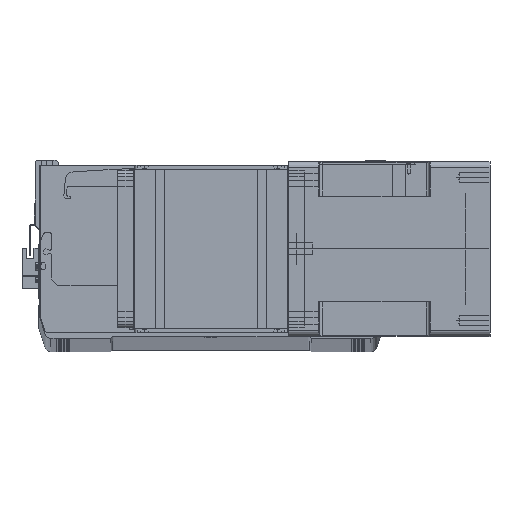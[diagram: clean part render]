
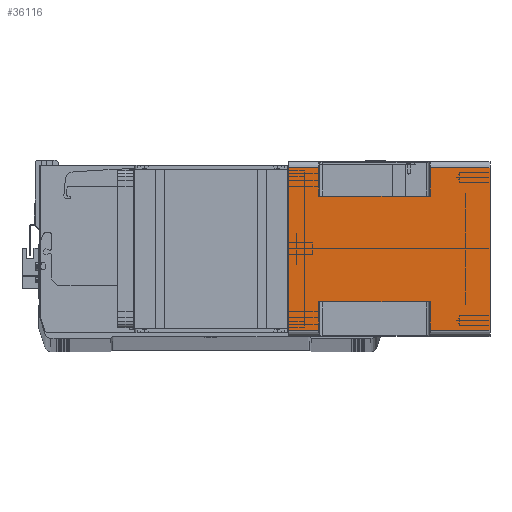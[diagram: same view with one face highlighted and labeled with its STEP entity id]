
A CAD part, top view. The second image highlights one B-rep face of the part: STEP entity #36116.
In plain terms, the highlighted planar face has unit normal (0, 0, 1) as drawn and (1, 0, 0) by its records, which use the part's own axes.
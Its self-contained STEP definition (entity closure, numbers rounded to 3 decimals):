
#647 = DIRECTION ( 'NONE',  ( 0., 0., 1. ) ) ;
#1308 = DIRECTION ( 'NONE',  ( 0., 1., 0. ) ) ;
#2711 = ORIENTED_EDGE ( 'NONE', *, *, #30347, .F. ) ;
#3357 = LINE ( 'NONE', #23295, #18928 ) ;
#3708 = LINE ( 'NONE', #35289, #28153 ) ;
#4295 = LINE ( 'NONE', #22416, #10559 ) ;
#4568 = VERTEX_POINT ( 'NONE', #21047 ) ;
#5814 = DIRECTION ( 'NONE',  ( 0., 1., 0. ) ) ;
#6978 = EDGE_CURVE ( 'NONE', #10827, #41794, #7485, .T. ) ;
#7207 = EDGE_CURVE ( 'NONE', #13892, #41375, #9526, .T. ) ;
#7485 = LINE ( 'NONE', #25269, #41763 ) ;
#7755 = VERTEX_POINT ( 'NONE', #33060 ) ;
#8310 = LINE ( 'NONE', #37068, #12461 ) ;
#8587 = CARTESIAN_POINT ( 'NONE',  ( 71., -66., 0. ) ) ;
#8748 = CARTESIAN_POINT ( 'NONE',  ( 71., -66., -115.5 ) ) ;
#9284 = DIRECTION ( 'NONE',  ( 0., 1., 0. ) ) ;
#9526 = LINE ( 'NONE', #33788, #23595 ) ;
#9715 = ORIENTED_EDGE ( 'NONE', *, *, #38269, .F. ) ;
#10559 = VECTOR ( 'NONE', #39079, 1000. ) ;
#10827 = VERTEX_POINT ( 'NONE', #15967 ) ;
#10894 = CARTESIAN_POINT ( 'NONE',  ( 71., 66., -115.5 ) ) ;
#11035 = ORIENTED_EDGE ( 'NONE', *, *, #35911, .T. ) ;
#11898 = DIRECTION ( 'NONE',  ( 0., 0., 1. ) ) ;
#12063 = LINE ( 'NONE', #24090, #36462 ) ;
#12461 = VECTOR ( 'NONE', #37203, 1000. ) ;
#12953 = CARTESIAN_POINT ( 'NONE',  ( 71., 66., 0. ) ) ;
#13747 = DIRECTION ( 'NONE',  ( 0., -1., 0. ) ) ;
#13892 = VERTEX_POINT ( 'NONE', #8587 ) ;
#14692 = EDGE_CURVE ( 'NONE', #22861, #41375, #3357, .T. ) ;
#15967 = CARTESIAN_POINT ( 'NONE',  ( 71., -66., -164. ) ) ;
#16120 = LINE ( 'NONE', #8748, #18177 ) ;
#17392 = FACE_OUTER_BOUND ( 'NONE', #33978, .T. ) ;
#17536 = EDGE_CURVE ( 'NONE', #33427, #13892, #29864, .T. ) ;
#18177 = VECTOR ( 'NONE', #28790, 1000. ) ;
#18928 = VECTOR ( 'NONE', #36350, 1000. ) ;
#19720 = CARTESIAN_POINT ( 'NONE',  ( 71., 43., -24.5 ) ) ;
#19921 = CARTESIAN_POINT ( 'NONE',  ( 71., -66., -24.5 ) ) ;
#20016 = LINE ( 'NONE', #24580, #29899 ) ;
#20181 = DIRECTION ( 'NONE',  ( 0., 0., -1. ) ) ;
#20347 = VERTEX_POINT ( 'NONE', #10894 ) ;
#21047 = CARTESIAN_POINT ( 'NONE',  ( 71., 66., -164. ) ) ;
#21187 = ORIENTED_EDGE ( 'NONE', *, *, #6978, .F. ) ;
#21535 = DIRECTION ( 'NONE',  ( 0., 0., 1. ) ) ;
#22409 = EDGE_CURVE ( 'NONE', #33427, #7755, #3708, .T. ) ;
#22416 = CARTESIAN_POINT ( 'NONE',  ( 71., -66., -24.5 ) ) ;
#22861 = VERTEX_POINT ( 'NONE', #35891 ) ;
#22937 = DIRECTION ( 'NONE',  ( 1., 0., 0. ) ) ;
#23295 = CARTESIAN_POINT ( 'NONE',  ( 71., 66., -164. ) ) ;
#23595 = VECTOR ( 'NONE', #30610, 1000. ) ;
#23962 = VECTOR ( 'NONE', #647, 1000. ) ;
#24090 = CARTESIAN_POINT ( 'NONE',  ( 71., 43., -115.5 ) ) ;
#24142 = CARTESIAN_POINT ( 'NONE',  ( 71., -43., -115.5 ) ) ;
#24337 = ORIENTED_EDGE ( 'NONE', *, *, #36858, .T. ) ;
#24580 = CARTESIAN_POINT ( 'NONE',  ( 71., -66., -164. ) ) ;
#25269 = CARTESIAN_POINT ( 'NONE',  ( 71., -66., -164. ) ) ;
#25440 = VECTOR ( 'NONE', #20181, 1000. ) ;
#26720 = VERTEX_POINT ( 'NONE', #24142 ) ;
#27263 = ORIENTED_EDGE ( 'NONE', *, *, #22409, .T. ) ;
#27590 = VERTEX_POINT ( 'NONE', #19720 ) ;
#28052 = CARTESIAN_POINT ( 'NONE',  ( 71., 43., -115.5 ) ) ;
#28153 = VECTOR ( 'NONE', #5814, 1000. ) ;
#28745 = CARTESIAN_POINT ( 'NONE',  ( 71., -66., -115.5 ) ) ;
#28790 = DIRECTION ( 'NONE',  ( 0., -1., 0. ) ) ;
#29864 = LINE ( 'NONE', #34147, #41270 ) ;
#29899 = VECTOR ( 'NONE', #1308, 1000. ) ;
#30347 = EDGE_CURVE ( 'NONE', #27590, #38488, #31656, .T. ) ;
#30610 = DIRECTION ( 'NONE',  ( 0., 1., 0. ) ) ;
#31656 = LINE ( 'NONE', #36844, #25440 ) ;
#31695 = ORIENTED_EDGE ( 'NONE', *, *, #40826, .T. ) ;
#32662 = PLANE ( 'NONE',  #33084 ) ;
#33060 = CARTESIAN_POINT ( 'NONE',  ( 71., -43., -24.5 ) ) ;
#33084 = AXIS2_PLACEMENT_3D ( 'NONE', #39311, #22937, #9284 ) ;
#33427 = VERTEX_POINT ( 'NONE', #19921 ) ;
#33778 = EDGE_CURVE ( 'NONE', #26720, #41794, #16120, .T. ) ;
#33788 = CARTESIAN_POINT ( 'NONE',  ( 71., -66., 0. ) ) ;
#33978 = EDGE_LOOP ( 'NONE', ( #9715, #37076, #21187, #11035, #38371, #31695, #2711, #24337, #34634, #39659, #34637, #27263 ) ) ;
#34147 = CARTESIAN_POINT ( 'NONE',  ( 71., -66., -164. ) ) ;
#34634 = ORIENTED_EDGE ( 'NONE', *, *, #14692, .T. ) ;
#34637 = ORIENTED_EDGE ( 'NONE', *, *, #17536, .F. ) ;
#35289 = CARTESIAN_POINT ( 'NONE',  ( 71., -43., -24.5 ) ) ;
#35872 = LINE ( 'NONE', #36920, #23962 ) ;
#35891 = CARTESIAN_POINT ( 'NONE',  ( 71., 66., -24.5 ) ) ;
#35911 = EDGE_CURVE ( 'NONE', #10827, #4568, #20016, .T. ) ;
#36116 = ADVANCED_FACE ( 'NONE', ( #17392 ), #32662, .T. ) ;
#36350 = DIRECTION ( 'NONE',  ( 0., 0., 1. ) ) ;
#36462 = VECTOR ( 'NONE', #13747, 1000. ) ;
#36844 = CARTESIAN_POINT ( 'NONE',  ( 71., 43., -164. ) ) ;
#36858 = EDGE_CURVE ( 'NONE', #27590, #22861, #4295, .T. ) ;
#36920 = CARTESIAN_POINT ( 'NONE',  ( 71., 66., -164. ) ) ;
#37068 = CARTESIAN_POINT ( 'NONE',  ( 71., -43., -164. ) ) ;
#37076 = ORIENTED_EDGE ( 'NONE', *, *, #33778, .T. ) ;
#37203 = DIRECTION ( 'NONE',  ( 0., 0., 1. ) ) ;
#38269 = EDGE_CURVE ( 'NONE', #26720, #7755, #8310, .T. ) ;
#38371 = ORIENTED_EDGE ( 'NONE', *, *, #41238, .T. ) ;
#38488 = VERTEX_POINT ( 'NONE', #28052 ) ;
#39079 = DIRECTION ( 'NONE',  ( 0., 1., 0. ) ) ;
#39311 = CARTESIAN_POINT ( 'NONE',  ( 71., -66., -164. ) ) ;
#39659 = ORIENTED_EDGE ( 'NONE', *, *, #7207, .F. ) ;
#40826 = EDGE_CURVE ( 'NONE', #20347, #38488, #12063, .T. ) ;
#41238 = EDGE_CURVE ( 'NONE', #4568, #20347, #35872, .T. ) ;
#41270 = VECTOR ( 'NONE', #21535, 1000. ) ;
#41375 = VERTEX_POINT ( 'NONE', #12953 ) ;
#41763 = VECTOR ( 'NONE', #11898, 1000. ) ;
#41794 = VERTEX_POINT ( 'NONE', #28745 ) ;
